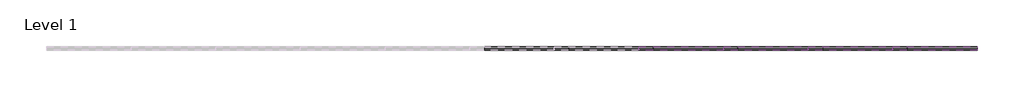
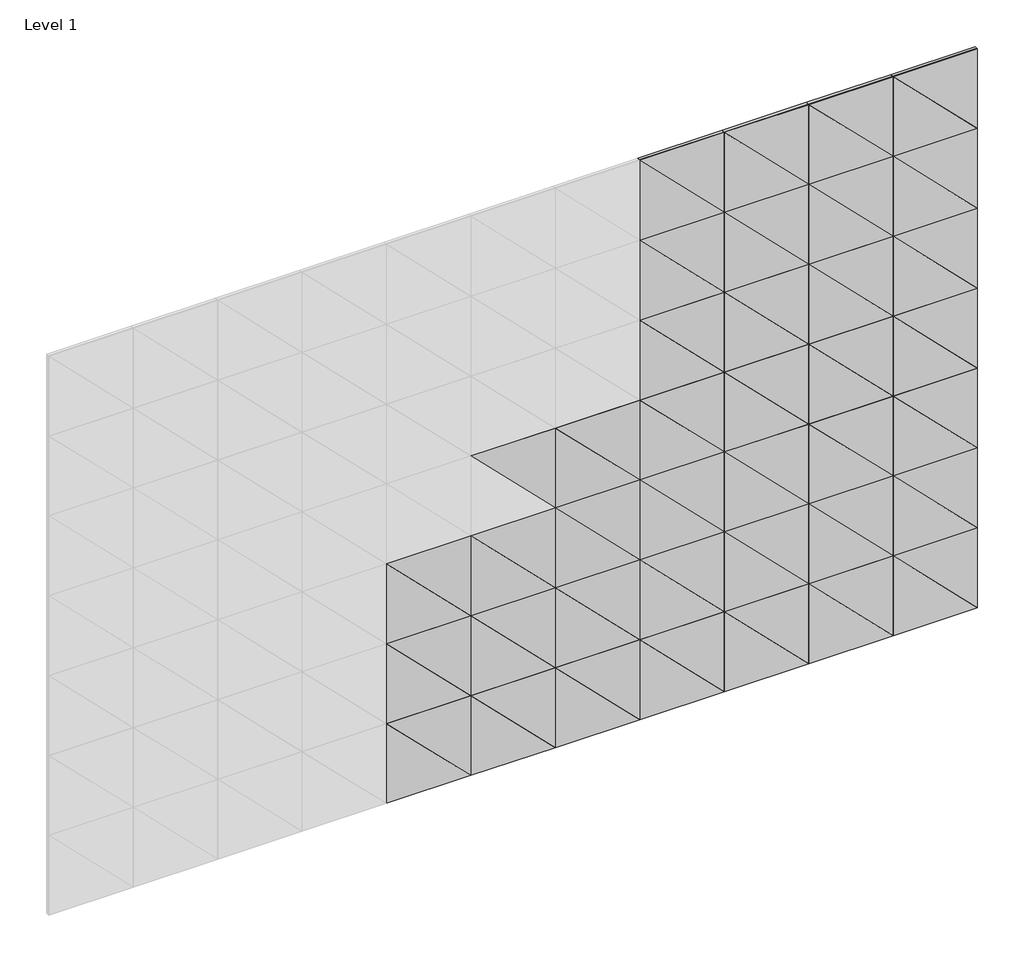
# One storey, part 2 of 2: 77 proxies.
"""IFC4 building model written with IfcOpenShell, lengths in millimetres."""

from ifc_helpers import new_model, si_unit, origin, place, context, project, spatial, transform, mapped, element, save
from components import triangle_90_block_a3482206

model = new_model("IFC4")

# Units and contexts
model_context = context("Model", 3, world=origin())
ifc_project = project(units=[si_unit("LENGTHUNIT", "METRE", prefix="MILLI")], contexts=[model_context])

# Site, building, storey
site = spatial("IfcSite", under=ifc_project)
building = spatial("IfcBuilding", under=site)
storey = spatial("IfcBuildingStorey", under=building, Name="Level 1", Elevation=0.0)

# Proxies
placement = place(None, origin())
triangle_90_block_shape = triangle_90_block_a3482206(model_context)
element("IfcBuildingElementProxy", 1, Name="FilzFelt_Triangle_90_Block : Triangle 90 Block", ObjectType="FilzFelt_Triangle_90_Block : Triangle 90 Block", at=placement, inside=storey, context=model_context, shape_type="MappedRepresentation", body=[
    mapped(triangle_90_block_shape, transform((40163.2097905, -10378.7647205, 2014.1), x_axis=(1.0, 0.0, 0.0), y_axis=(0.0, 0.0, 1.0), z_axis=(0.0, -1.0, 0.0))),
])
element("IfcBuildingElementProxy", 2, Name="FilzFelt_Triangle_90_Block : Triangle 90 Block", ObjectType="FilzFelt_Triangle_90_Block : Triangle 90 Block", at=placement, inside=storey, context=model_context, shape_type="MappedRepresentation", body=[
    mapped(triangle_90_block_shape, transform((40468.2097905, -10378.7647205, 2014.1), x_axis=(1.0, 0.0, 0.0), y_axis=(0.0, 0.0, 1.0), z_axis=(0.0, -1.0, 0.0))),
])
element("IfcBuildingElementProxy", 3, Name="FilzFelt_Triangle_90_Block : Triangle 90 Block", ObjectType="FilzFelt_Triangle_90_Block : Triangle 90 Block", at=placement, inside=storey, context=model_context, shape_type="MappedRepresentation", body=[
    mapped(triangle_90_block_shape, transform((40773.2097905, -10378.7647205, 2014.1), x_axis=(1.0, 0.0, 0.0), y_axis=(0.0, 0.0, 1.0), z_axis=(0.0, -1.0, 0.0))),
])
element("IfcBuildingElementProxy", 4, Name="FilzFelt_Triangle_90_Block : Triangle 90 Block", ObjectType="FilzFelt_Triangle_90_Block : Triangle 90 Block", at=placement, inside=storey, context=model_context, shape_type="MappedRepresentation", body=[
    mapped(triangle_90_block_shape, transform((41078.2097905, -10378.7647205, 2014.1), x_axis=(1.0, 0.0, 0.0), y_axis=(0.0, 0.0, 1.0), z_axis=(0.0, -1.0, 0.0))),
])
element("IfcBuildingElementProxy", 5, Name="FilzFelt_Triangle_90_Block : Triangle 90 Block", ObjectType="FilzFelt_Triangle_90_Block : Triangle 90 Block", at=placement, inside=storey, context=model_context, shape_type="MappedRepresentation", body=[
    mapped(triangle_90_block_shape, transform((40163.2097905, -10378.7647205, 1709.1), x_axis=(1.0, 0.0, 0.0), y_axis=(0.0, 0.0, 1.0), z_axis=(0.0, -1.0, 0.0))),
])
element("IfcBuildingElementProxy", 6, Name="FilzFelt_Triangle_90_Block : Triangle 90 Block", ObjectType="FilzFelt_Triangle_90_Block : Triangle 90 Block", at=placement, inside=storey, context=model_context, shape_type="MappedRepresentation", body=[
    mapped(triangle_90_block_shape, transform((40468.2097905, -10378.7647205, 1709.1), x_axis=(1.0, 0.0, 0.0), y_axis=(0.0, 0.0, 1.0), z_axis=(0.0, -1.0, 0.0))),
])
element("IfcBuildingElementProxy", 7, Name="FilzFelt_Triangle_90_Block : Triangle 90 Block", ObjectType="FilzFelt_Triangle_90_Block : Triangle 90 Block", at=placement, inside=storey, context=model_context, shape_type="MappedRepresentation", body=[
    mapped(triangle_90_block_shape, transform((40773.2097905, -10378.7647205, 1709.1), x_axis=(1.0, 0.0, 0.0), y_axis=(0.0, 0.0, 1.0), z_axis=(0.0, -1.0, 0.0))),
])
element("IfcBuildingElementProxy", 8, Name="FilzFelt_Triangle_90_Block : Triangle 90 Block", ObjectType="FilzFelt_Triangle_90_Block : Triangle 90 Block", at=placement, inside=storey, context=model_context, shape_type="MappedRepresentation", body=[
    mapped(triangle_90_block_shape, transform((41078.2097905, -10378.7647205, 1709.1), x_axis=(1.0, 0.0, 0.0), y_axis=(0.0, 0.0, 1.0), z_axis=(0.0, -1.0, 0.0))),
])
element("IfcBuildingElementProxy", 9, Name="FilzFelt_Triangle_90_Block : Triangle 90 Block", ObjectType="FilzFelt_Triangle_90_Block : Triangle 90 Block", at=placement, inside=storey, context=model_context, shape_type="MappedRepresentation", body=[
    mapped(triangle_90_block_shape, transform((40163.2097905, -10378.7647205, 1404.1), x_axis=(1.0, 0.0, 0.0), y_axis=(0.0, 0.0, 1.0), z_axis=(0.0, -1.0, 0.0))),
])
element("IfcBuildingElementProxy", 10, Name="FilzFelt_Triangle_90_Block : Triangle 90 Block", ObjectType="FilzFelt_Triangle_90_Block : Triangle 90 Block", at=placement, inside=storey, context=model_context, shape_type="MappedRepresentation", body=[
    mapped(triangle_90_block_shape, transform((40468.2097905, -10378.7647205, 1404.1), x_axis=(1.0, 0.0, 0.0), y_axis=(0.0, 0.0, 1.0), z_axis=(0.0, -1.0, 0.0))),
])
element("IfcBuildingElementProxy", 11, Name="FilzFelt_Triangle_90_Block : Triangle 90 Block", ObjectType="FilzFelt_Triangle_90_Block : Triangle 90 Block", at=placement, inside=storey, context=model_context, shape_type="MappedRepresentation", body=[
    mapped(triangle_90_block_shape, transform((40773.2097905, -10378.7647205, 1404.1), x_axis=(1.0, 0.0, 0.0), y_axis=(0.0, 0.0, 1.0), z_axis=(0.0, -1.0, 0.0))),
])
element("IfcBuildingElementProxy", 12, Name="FilzFelt_Triangle_90_Block : Triangle 90 Block", ObjectType="FilzFelt_Triangle_90_Block : Triangle 90 Block", at=placement, inside=storey, context=model_context, shape_type="MappedRepresentation", body=[
    mapped(triangle_90_block_shape, transform((41078.2097905, -10378.7647205, 1404.1), x_axis=(1.0, 0.0, 0.0), y_axis=(0.0, 0.0, 1.0), z_axis=(0.0, -1.0, 0.0))),
])
element("IfcBuildingElementProxy", 13, Name="FilzFelt_Triangle_90_Block : Triangle 90 Block", ObjectType="FilzFelt_Triangle_90_Block : Triangle 90 Block", at=placement, inside=storey, context=model_context, shape_type="MappedRepresentation", body=[
    mapped(triangle_90_block_shape, transform((39858.2097905, -10378.7647205, 1099.1), x_axis=(1.0, 0.0, 0.0), y_axis=(0.0, 0.0, 1.0), z_axis=(0.0, -1.0, 0.0))),
])
element("IfcBuildingElementProxy", 14, Name="FilzFelt_Triangle_90_Block : Triangle 90 Block", ObjectType="FilzFelt_Triangle_90_Block : Triangle 90 Block", at=placement, inside=storey, context=model_context, shape_type="MappedRepresentation", body=[
    mapped(triangle_90_block_shape, transform((40163.2097905, -10378.7647205, 1099.1), x_axis=(1.0, 0.0, 0.0), y_axis=(0.0, 0.0, 1.0), z_axis=(0.0, -1.0, 0.0))),
])
element("IfcBuildingElementProxy", 15, Name="FilzFelt_Triangle_90_Block : Triangle 90 Block", ObjectType="FilzFelt_Triangle_90_Block : Triangle 90 Block", at=placement, inside=storey, context=model_context, shape_type="MappedRepresentation", body=[
    mapped(triangle_90_block_shape, transform((40468.2097905, -10378.7647205, 1099.1), x_axis=(1.0, 0.0, 0.0), y_axis=(0.0, 0.0, 1.0), z_axis=(0.0, -1.0, 0.0))),
])
element("IfcBuildingElementProxy", 16, Name="FilzFelt_Triangle_90_Block : Triangle 90 Block", ObjectType="FilzFelt_Triangle_90_Block : Triangle 90 Block", at=placement, inside=storey, context=model_context, shape_type="MappedRepresentation", body=[
    mapped(triangle_90_block_shape, transform((40773.2097905, -10378.7647205, 1099.1), x_axis=(1.0, 0.0, 0.0), y_axis=(0.0, 0.0, 1.0), z_axis=(0.0, -1.0, 0.0))),
])
element("IfcBuildingElementProxy", 17, Name="FilzFelt_Triangle_90_Block : Triangle 90 Block", ObjectType="FilzFelt_Triangle_90_Block : Triangle 90 Block", at=placement, inside=storey, context=model_context, shape_type="MappedRepresentation", body=[
    mapped(triangle_90_block_shape, transform((41078.2097905, -10378.7647205, 1099.1), x_axis=(1.0, 0.0, 0.0), y_axis=(0.0, 0.0, 1.0), z_axis=(0.0, -1.0, 0.0))),
])
element("IfcBuildingElementProxy", 18, Name="FilzFelt_Triangle_90_Block : Triangle 90 Block", ObjectType="FilzFelt_Triangle_90_Block : Triangle 90 Block", at=placement, inside=storey, context=model_context, shape_type="MappedRepresentation", body=[
    mapped(triangle_90_block_shape, transform((39248.2097905, -10378.7647205, 794.1), x_axis=(1.0, 0.0, 0.0), y_axis=(0.0, 0.0, 1.0), z_axis=(0.0, -1.0, 0.0))),
])
element("IfcBuildingElementProxy", 19, Name="FilzFelt_Triangle_90_Block : Triangle 90 Block", ObjectType="FilzFelt_Triangle_90_Block : Triangle 90 Block", at=placement, inside=storey, context=model_context, shape_type="MappedRepresentation", body=[
    mapped(triangle_90_block_shape, transform((39553.2097905, -10378.7647205, 794.1), x_axis=(1.0, 0.0, 0.0), y_axis=(0.0, 0.0, 1.0), z_axis=(0.0, -1.0, 0.0))),
])
element("IfcBuildingElementProxy", 20, Name="FilzFelt_Triangle_90_Block : Triangle 90 Block", ObjectType="FilzFelt_Triangle_90_Block : Triangle 90 Block", at=placement, inside=storey, context=model_context, shape_type="MappedRepresentation", body=[
    mapped(triangle_90_block_shape, transform((39858.2097905, -10378.7647205, 794.1), x_axis=(1.0, 0.0, 0.0), y_axis=(0.0, 0.0, 1.0), z_axis=(0.0, -1.0, 0.0))),
])
element("IfcBuildingElementProxy", 21, Name="FilzFelt_Triangle_90_Block : Triangle 90 Block", ObjectType="FilzFelt_Triangle_90_Block : Triangle 90 Block", at=placement, inside=storey, context=model_context, shape_type="MappedRepresentation", body=[
    mapped(triangle_90_block_shape, transform((40163.2097905, -10378.7647205, 794.1), x_axis=(1.0, 0.0, 0.0), y_axis=(0.0, 0.0, 1.0), z_axis=(0.0, -1.0, 0.0))),
])
element("IfcBuildingElementProxy", 22, Name="FilzFelt_Triangle_90_Block : Triangle 90 Block", ObjectType="FilzFelt_Triangle_90_Block : Triangle 90 Block", at=placement, inside=storey, context=model_context, shape_type="MappedRepresentation", body=[
    mapped(triangle_90_block_shape, transform((40468.2097905, -10378.7647205, 794.1), x_axis=(1.0, 0.0, 0.0), y_axis=(0.0, 0.0, 1.0), z_axis=(0.0, -1.0, 0.0))),
])
element("IfcBuildingElementProxy", 23, Name="FilzFelt_Triangle_90_Block : Triangle 90 Block", ObjectType="FilzFelt_Triangle_90_Block : Triangle 90 Block", at=placement, inside=storey, context=model_context, shape_type="MappedRepresentation", body=[
    mapped(triangle_90_block_shape, transform((40773.2097905, -10378.7647205, 794.1), x_axis=(1.0, 0.0, 0.0), y_axis=(0.0, 0.0, 1.0), z_axis=(0.0, -1.0, 0.0))),
])
element("IfcBuildingElementProxy", 24, Name="FilzFelt_Triangle_90_Block : Triangle 90 Block", ObjectType="FilzFelt_Triangle_90_Block : Triangle 90 Block", at=placement, inside=storey, context=model_context, shape_type="MappedRepresentation", body=[
    mapped(triangle_90_block_shape, transform((41078.2097905, -10378.7647205, 794.1), x_axis=(1.0, 0.0, 0.0), y_axis=(0.0, 0.0, 1.0), z_axis=(0.0, -1.0, 0.0))),
])
element("IfcBuildingElementProxy", 25, Name="FilzFelt_Triangle_90_Block : Triangle 90 Block", ObjectType="FilzFelt_Triangle_90_Block : Triangle 90 Block", at=placement, inside=storey, context=model_context, shape_type="MappedRepresentation", body=[
    mapped(triangle_90_block_shape, transform((39248.2097905, -10378.7647205, 489.1), x_axis=(1.0, 0.0, 0.0), y_axis=(0.0, 0.0, 1.0), z_axis=(0.0, -1.0, 0.0))),
])
element("IfcBuildingElementProxy", 26, Name="FilzFelt_Triangle_90_Block : Triangle 90 Block", ObjectType="FilzFelt_Triangle_90_Block : Triangle 90 Block", at=placement, inside=storey, context=model_context, shape_type="MappedRepresentation", body=[
    mapped(triangle_90_block_shape, transform((39553.2097905, -10378.7647205, 489.1), x_axis=(1.0, 0.0, 0.0), y_axis=(0.0, 0.0, 1.0), z_axis=(0.0, -1.0, 0.0))),
])
element("IfcBuildingElementProxy", 27, Name="FilzFelt_Triangle_90_Block : Triangle 90 Block", ObjectType="FilzFelt_Triangle_90_Block : Triangle 90 Block", at=placement, inside=storey, context=model_context, shape_type="MappedRepresentation", body=[
    mapped(triangle_90_block_shape, transform((39858.2097905, -10378.7647205, 489.1), x_axis=(1.0, 0.0, 0.0), y_axis=(0.0, 0.0, 1.0), z_axis=(0.0, -1.0, 0.0))),
])
element("IfcBuildingElementProxy", 28, Name="FilzFelt_Triangle_90_Block : Triangle 90 Block", ObjectType="FilzFelt_Triangle_90_Block : Triangle 90 Block", at=placement, inside=storey, context=model_context, shape_type="MappedRepresentation", body=[
    mapped(triangle_90_block_shape, transform((40163.2097905, -10378.7647205, 489.1), x_axis=(1.0, 0.0, 0.0), y_axis=(0.0, 0.0, 1.0), z_axis=(0.0, -1.0, 0.0))),
])
element("IfcBuildingElementProxy", 29, Name="FilzFelt_Triangle_90_Block : Triangle 90 Block", ObjectType="FilzFelt_Triangle_90_Block : Triangle 90 Block", at=placement, inside=storey, context=model_context, shape_type="MappedRepresentation", body=[
    mapped(triangle_90_block_shape, transform((40468.2097905, -10378.7647205, 489.1), x_axis=(1.0, 0.0, 0.0), y_axis=(0.0, 0.0, 1.0), z_axis=(0.0, -1.0, 0.0))),
])
element("IfcBuildingElementProxy", 30, Name="FilzFelt_Triangle_90_Block : Triangle 90 Block", ObjectType="FilzFelt_Triangle_90_Block : Triangle 90 Block", at=placement, inside=storey, context=model_context, shape_type="MappedRepresentation", body=[
    mapped(triangle_90_block_shape, transform((40773.2097905, -10378.7647205, 489.1), x_axis=(1.0, 0.0, 0.0), y_axis=(0.0, 0.0, 1.0), z_axis=(0.0, -1.0, 0.0))),
])
element("IfcBuildingElementProxy", 31, Name="FilzFelt_Triangle_90_Block : Triangle 90 Block", ObjectType="FilzFelt_Triangle_90_Block : Triangle 90 Block", at=placement, inside=storey, context=model_context, shape_type="MappedRepresentation", body=[
    mapped(triangle_90_block_shape, transform((41078.2097905, -10378.7647205, 489.1), x_axis=(1.0, 0.0, 0.0), y_axis=(0.0, 0.0, 1.0), z_axis=(0.0, -1.0, 0.0))),
])
element("IfcBuildingElementProxy", 32, Name="FilzFelt_Triangle_90_Block : Triangle 90 Block", ObjectType="FilzFelt_Triangle_90_Block : Triangle 90 Block", at=placement, inside=storey, context=model_context, shape_type="MappedRepresentation", body=[
    mapped(triangle_90_block_shape, transform((39248.2097905, -10378.7647205, 184.1), x_axis=(1.0, 0.0, 0.0), y_axis=(0.0, 0.0, 1.0), z_axis=(0.0, -1.0, 0.0))),
])
element("IfcBuildingElementProxy", 33, Name="FilzFelt_Triangle_90_Block : Triangle 90 Block", ObjectType="FilzFelt_Triangle_90_Block : Triangle 90 Block", at=placement, inside=storey, context=model_context, shape_type="MappedRepresentation", body=[
    mapped(triangle_90_block_shape, transform((39553.2097905, -10378.7647205, 184.1), x_axis=(1.0, 0.0, 0.0), y_axis=(0.0, 0.0, 1.0), z_axis=(0.0, -1.0, 0.0))),
])
element("IfcBuildingElementProxy", 34, Name="FilzFelt_Triangle_90_Block : Triangle 90 Block", ObjectType="FilzFelt_Triangle_90_Block : Triangle 90 Block", at=placement, inside=storey, context=model_context, shape_type="MappedRepresentation", body=[
    mapped(triangle_90_block_shape, transform((39858.2097905, -10378.7647205, 184.1), x_axis=(1.0, 0.0, 0.0), y_axis=(0.0, 0.0, 1.0), z_axis=(0.0, -1.0, 0.0))),
])
element("IfcBuildingElementProxy", 35, Name="FilzFelt_Triangle_90_Block : Triangle 90 Block", ObjectType="FilzFelt_Triangle_90_Block : Triangle 90 Block", at=placement, inside=storey, context=model_context, shape_type="MappedRepresentation", body=[
    mapped(triangle_90_block_shape, transform((40163.2097905, -10378.7647205, 184.1), x_axis=(1.0, 0.0, 0.0), y_axis=(0.0, 0.0, 1.0), z_axis=(0.0, -1.0, 0.0))),
])
element("IfcBuildingElementProxy", 36, Name="FilzFelt_Triangle_90_Block : Triangle 90 Block", ObjectType="FilzFelt_Triangle_90_Block : Triangle 90 Block", at=placement, inside=storey, context=model_context, shape_type="MappedRepresentation", body=[
    mapped(triangle_90_block_shape, transform((40468.2097905, -10378.7647205, 184.1), x_axis=(1.0, 0.0, 0.0), y_axis=(0.0, 0.0, 1.0), z_axis=(0.0, -1.0, 0.0))),
])
element("IfcBuildingElementProxy", 37, Name="FilzFelt_Triangle_90_Block : Triangle 90 Block", ObjectType="FilzFelt_Triangle_90_Block : Triangle 90 Block", at=placement, inside=storey, context=model_context, shape_type="MappedRepresentation", body=[
    mapped(triangle_90_block_shape, transform((40773.2097905, -10378.7647205, 184.1), x_axis=(1.0, 0.0, 0.0), y_axis=(0.0, 0.0, 1.0), z_axis=(0.0, -1.0, 0.0))),
])
element("IfcBuildingElementProxy", 38, Name="FilzFelt_Triangle_90_Block : Triangle 90 Block", ObjectType="FilzFelt_Triangle_90_Block : Triangle 90 Block", at=placement, inside=storey, context=model_context, shape_type="MappedRepresentation", body=[
    mapped(triangle_90_block_shape, transform((41078.2097905, -10378.7647205, 184.1), x_axis=(1.0, 0.0, 0.0), y_axis=(0.0, 0.0, 1.0), z_axis=(0.0, -1.0, 0.0))),
])
element("IfcBuildingElementProxy", 39, Name="FilzFelt_Triangle_90_Block : Triangle 90 Block", ObjectType="FilzFelt_Triangle_90_Block : Triangle 90 Block", at=placement, inside=storey, context=model_context, shape_type="MappedRepresentation", body=[
    mapped(triangle_90_block_shape, transform((40163.2097905, -10378.7647205, 2014.1), x_axis=(-1.0, 0.0, 0.0), y_axis=(0.0, 0.0, -1.0), z_axis=(0.0, -1.0, 0.0))),
])
element("IfcBuildingElementProxy", 40, Name="FilzFelt_Triangle_90_Block : Triangle 90 Block", ObjectType="FilzFelt_Triangle_90_Block : Triangle 90 Block", at=placement, inside=storey, context=model_context, shape_type="MappedRepresentation", body=[
    mapped(triangle_90_block_shape, transform((40468.2097905, -10378.7647205, 2014.1), x_axis=(-1.0, 0.0, 0.0), y_axis=(0.0, 0.0, -1.0), z_axis=(0.0, -1.0, 0.0))),
])
element("IfcBuildingElementProxy", 41, Name="FilzFelt_Triangle_90_Block : Triangle 90 Block", ObjectType="FilzFelt_Triangle_90_Block : Triangle 90 Block", at=placement, inside=storey, context=model_context, shape_type="MappedRepresentation", body=[
    mapped(triangle_90_block_shape, transform((40773.2097905, -10378.7647205, 2014.1), x_axis=(-1.0, 0.0, 0.0), y_axis=(0.0, 0.0, -1.0), z_axis=(0.0, -1.0, 0.0))),
])
element("IfcBuildingElementProxy", 42, Name="FilzFelt_Triangle_90_Block : Triangle 90 Block", ObjectType="FilzFelt_Triangle_90_Block : Triangle 90 Block", at=placement, inside=storey, context=model_context, shape_type="MappedRepresentation", body=[
    mapped(triangle_90_block_shape, transform((41078.2097905, -10378.7647205, 2014.1), x_axis=(-1.0, 0.0, 0.0), y_axis=(0.0, 0.0, -1.0), z_axis=(0.0, -1.0, 0.0))),
])
element("IfcBuildingElementProxy", 43, Name="FilzFelt_Triangle_90_Block : Triangle 90 Block", ObjectType="FilzFelt_Triangle_90_Block : Triangle 90 Block", at=placement, inside=storey, context=model_context, shape_type="MappedRepresentation", body=[
    mapped(triangle_90_block_shape, transform((40163.2097905, -10378.7647205, 1404.1), x_axis=(-1.0, 0.0, 0.0), y_axis=(0.0, 0.0, -1.0), z_axis=(0.0, -1.0, 0.0))),
])
element("IfcBuildingElementProxy", 44, Name="FilzFelt_Triangle_90_Block : Triangle 90 Block", ObjectType="FilzFelt_Triangle_90_Block : Triangle 90 Block", at=placement, inside=storey, context=model_context, shape_type="MappedRepresentation", body=[
    mapped(triangle_90_block_shape, transform((40468.2097905, -10378.7647205, 1404.1), x_axis=(-1.0, 0.0, 0.0), y_axis=(0.0, 0.0, -1.0), z_axis=(0.0, -1.0, 0.0))),
])
element("IfcBuildingElementProxy", 45, Name="FilzFelt_Triangle_90_Block : Triangle 90 Block", ObjectType="FilzFelt_Triangle_90_Block : Triangle 90 Block", at=placement, inside=storey, context=model_context, shape_type="MappedRepresentation", body=[
    mapped(triangle_90_block_shape, transform((40773.2097905, -10378.7647205, 1404.1), x_axis=(-1.0, 0.0, 0.0), y_axis=(0.0, 0.0, -1.0), z_axis=(0.0, -1.0, 0.0))),
])
element("IfcBuildingElementProxy", 46, Name="FilzFelt_Triangle_90_Block : Triangle 90 Block", ObjectType="FilzFelt_Triangle_90_Block : Triangle 90 Block", at=placement, inside=storey, context=model_context, shape_type="MappedRepresentation", body=[
    mapped(triangle_90_block_shape, transform((41078.2097905, -10378.7647205, 1404.1), x_axis=(-1.0, 0.0, 0.0), y_axis=(0.0, 0.0, -1.0), z_axis=(0.0, -1.0, 0.0))),
])
element("IfcBuildingElementProxy", 47, Name="FilzFelt_Triangle_90_Block : Triangle 90 Block", ObjectType="FilzFelt_Triangle_90_Block : Triangle 90 Block", at=placement, inside=storey, context=model_context, shape_type="MappedRepresentation", body=[
    mapped(triangle_90_block_shape, transform((39248.2097905, -10378.7647205, 794.1), x_axis=(-1.0, 0.0, 0.0), y_axis=(0.0, 0.0, -1.0), z_axis=(0.0, -1.0, 0.0))),
])
element("IfcBuildingElementProxy", 48, Name="FilzFelt_Triangle_90_Block : Triangle 90 Block", ObjectType="FilzFelt_Triangle_90_Block : Triangle 90 Block", at=placement, inside=storey, context=model_context, shape_type="MappedRepresentation", body=[
    mapped(triangle_90_block_shape, transform((39553.2097905, -10378.7647205, 794.1), x_axis=(-1.0, 0.0, 0.0), y_axis=(0.0, 0.0, -1.0), z_axis=(0.0, -1.0, 0.0))),
])
element("IfcBuildingElementProxy", 49, Name="FilzFelt_Triangle_90_Block : Triangle 90 Block", ObjectType="FilzFelt_Triangle_90_Block : Triangle 90 Block", at=placement, inside=storey, context=model_context, shape_type="MappedRepresentation", body=[
    mapped(triangle_90_block_shape, transform((39858.2097905, -10378.7647205, 794.1), x_axis=(-1.0, 0.0, 0.0), y_axis=(0.0, 0.0, -1.0), z_axis=(0.0, -1.0, 0.0))),
])
element("IfcBuildingElementProxy", 50, Name="FilzFelt_Triangle_90_Block : Triangle 90 Block", ObjectType="FilzFelt_Triangle_90_Block : Triangle 90 Block", at=placement, inside=storey, context=model_context, shape_type="MappedRepresentation", body=[
    mapped(triangle_90_block_shape, transform((40163.2097905, -10378.7647205, 794.1), x_axis=(-1.0, 0.0, 0.0), y_axis=(0.0, 0.0, -1.0), z_axis=(0.0, -1.0, 0.0))),
])
element("IfcBuildingElementProxy", 51, Name="FilzFelt_Triangle_90_Block : Triangle 90 Block", ObjectType="FilzFelt_Triangle_90_Block : Triangle 90 Block", at=placement, inside=storey, context=model_context, shape_type="MappedRepresentation", body=[
    mapped(triangle_90_block_shape, transform((40468.2097905, -10378.7647205, 794.1), x_axis=(-1.0, 0.0, 0.0), y_axis=(0.0, 0.0, -1.0), z_axis=(0.0, -1.0, 0.0))),
])
element("IfcBuildingElementProxy", 52, Name="FilzFelt_Triangle_90_Block : Triangle 90 Block", ObjectType="FilzFelt_Triangle_90_Block : Triangle 90 Block", at=placement, inside=storey, context=model_context, shape_type="MappedRepresentation", body=[
    mapped(triangle_90_block_shape, transform((40773.2097905, -10378.7647205, 794.1), x_axis=(-1.0, 0.0, 0.0), y_axis=(0.0, 0.0, -1.0), z_axis=(0.0, -1.0, 0.0))),
])
element("IfcBuildingElementProxy", 53, Name="FilzFelt_Triangle_90_Block : Triangle 90 Block", ObjectType="FilzFelt_Triangle_90_Block : Triangle 90 Block", at=placement, inside=storey, context=model_context, shape_type="MappedRepresentation", body=[
    mapped(triangle_90_block_shape, transform((41078.2097905, -10378.7647205, 794.1), x_axis=(-1.0, 0.0, 0.0), y_axis=(0.0, 0.0, -1.0), z_axis=(0.0, -1.0, 0.0))),
])
element("IfcBuildingElementProxy", 54, Name="FilzFelt_Triangle_90_Block : Triangle 90 Block", ObjectType="FilzFelt_Triangle_90_Block : Triangle 90 Block", at=placement, inside=storey, context=model_context, shape_type="MappedRepresentation", body=[
    mapped(triangle_90_block_shape, transform((39248.2097905, -10378.7647205, 184.1), x_axis=(-1.0, 0.0, 0.0), y_axis=(0.0, 0.0, -1.0), z_axis=(0.0, -1.0, 0.0))),
])
element("IfcBuildingElementProxy", 55, Name="FilzFelt_Triangle_90_Block : Triangle 90 Block", ObjectType="FilzFelt_Triangle_90_Block : Triangle 90 Block", at=placement, inside=storey, context=model_context, shape_type="MappedRepresentation", body=[
    mapped(triangle_90_block_shape, transform((39553.2097905, -10378.7647205, 184.1), x_axis=(-1.0, 0.0, 0.0), y_axis=(0.0, 0.0, -1.0), z_axis=(0.0, -1.0, 0.0))),
])
element("IfcBuildingElementProxy", 56, Name="FilzFelt_Triangle_90_Block : Triangle 90 Block", ObjectType="FilzFelt_Triangle_90_Block : Triangle 90 Block", at=placement, inside=storey, context=model_context, shape_type="MappedRepresentation", body=[
    mapped(triangle_90_block_shape, transform((39858.2097905, -10378.7647205, 184.1), x_axis=(-1.0, 0.0, 0.0), y_axis=(0.0, 0.0, -1.0), z_axis=(0.0, -1.0, 0.0))),
])
element("IfcBuildingElementProxy", 57, Name="FilzFelt_Triangle_90_Block : Triangle 90 Block", ObjectType="FilzFelt_Triangle_90_Block : Triangle 90 Block", at=placement, inside=storey, context=model_context, shape_type="MappedRepresentation", body=[
    mapped(triangle_90_block_shape, transform((40163.2097905, -10378.7647205, 184.1), x_axis=(-1.0, 0.0, 0.0), y_axis=(0.0, 0.0, -1.0), z_axis=(0.0, -1.0, 0.0))),
])
element("IfcBuildingElementProxy", 58, Name="FilzFelt_Triangle_90_Block : Triangle 90 Block", ObjectType="FilzFelt_Triangle_90_Block : Triangle 90 Block", at=placement, inside=storey, context=model_context, shape_type="MappedRepresentation", body=[
    mapped(triangle_90_block_shape, transform((40468.2097905, -10378.7647205, 184.1), x_axis=(-1.0, 0.0, 0.0), y_axis=(0.0, 0.0, -1.0), z_axis=(0.0, -1.0, 0.0))),
])
element("IfcBuildingElementProxy", 59, Name="FilzFelt_Triangle_90_Block : Triangle 90 Block", ObjectType="FilzFelt_Triangle_90_Block : Triangle 90 Block", at=placement, inside=storey, context=model_context, shape_type="MappedRepresentation", body=[
    mapped(triangle_90_block_shape, transform((40773.2097905, -10378.7647205, 184.1), x_axis=(-1.0, 0.0, 0.0), y_axis=(0.0, 0.0, -1.0), z_axis=(0.0, -1.0, 0.0))),
])
element("IfcBuildingElementProxy", 60, Name="FilzFelt_Triangle_90_Block : Triangle 90 Block", ObjectType="FilzFelt_Triangle_90_Block : Triangle 90 Block", at=placement, inside=storey, context=model_context, shape_type="MappedRepresentation", body=[
    mapped(triangle_90_block_shape, transform((41078.2097905, -10378.7647205, 184.1), x_axis=(-1.0, 0.0, 0.0), y_axis=(0.0, 0.0, -1.0), z_axis=(0.0, -1.0, 0.0))),
])
element("IfcBuildingElementProxy", 61, Name="FilzFelt_Triangle_90_Block : Triangle 90 Block", ObjectType="FilzFelt_Triangle_90_Block : Triangle 90 Block", at=placement, inside=storey, context=model_context, shape_type="MappedRepresentation", body=[
    mapped(triangle_90_block_shape, transform((40163.2097905, -10378.7647205, 1709.1), x_axis=(-1.0, 0.0, 0.0), y_axis=(0.0, 0.0, -1.0), z_axis=(0.0, -1.0, 0.0))),
])
element("IfcBuildingElementProxy", 62, Name="FilzFelt_Triangle_90_Block : Triangle 90 Block", ObjectType="FilzFelt_Triangle_90_Block : Triangle 90 Block", at=placement, inside=storey, context=model_context, shape_type="MappedRepresentation", body=[
    mapped(triangle_90_block_shape, transform((40468.2097905, -10378.7647205, 1709.1), x_axis=(-1.0, 0.0, 0.0), y_axis=(0.0, 0.0, -1.0), z_axis=(0.0, -1.0, 0.0))),
])
element("IfcBuildingElementProxy", 63, Name="FilzFelt_Triangle_90_Block : Triangle 90 Block", ObjectType="FilzFelt_Triangle_90_Block : Triangle 90 Block", at=placement, inside=storey, context=model_context, shape_type="MappedRepresentation", body=[
    mapped(triangle_90_block_shape, transform((40773.2097905, -10378.7647205, 1709.1), x_axis=(-1.0, 0.0, 0.0), y_axis=(0.0, 0.0, -1.0), z_axis=(0.0, -1.0, 0.0))),
])
element("IfcBuildingElementProxy", 64, Name="FilzFelt_Triangle_90_Block : Triangle 90 Block", ObjectType="FilzFelt_Triangle_90_Block : Triangle 90 Block", at=placement, inside=storey, context=model_context, shape_type="MappedRepresentation", body=[
    mapped(triangle_90_block_shape, transform((41078.2097905, -10378.7647205, 1709.1), x_axis=(-1.0, 0.0, 0.0), y_axis=(0.0, 0.0, -1.0), z_axis=(0.0, -1.0, 0.0))),
])
element("IfcBuildingElementProxy", 65, Name="FilzFelt_Triangle_90_Block : Triangle 90 Block", ObjectType="FilzFelt_Triangle_90_Block : Triangle 90 Block", at=placement, inside=storey, context=model_context, shape_type="MappedRepresentation", body=[
    mapped(triangle_90_block_shape, transform((39553.2097905, -10378.7647205, 1099.1), x_axis=(-1.0, 0.0, 0.0), y_axis=(0.0, 0.0, -1.0), z_axis=(0.0, -1.0, 0.0))),
])
element("IfcBuildingElementProxy", 66, Name="FilzFelt_Triangle_90_Block : Triangle 90 Block", ObjectType="FilzFelt_Triangle_90_Block : Triangle 90 Block", at=placement, inside=storey, context=model_context, shape_type="MappedRepresentation", body=[
    mapped(triangle_90_block_shape, transform((39858.2097905, -10378.7647205, 1099.1), x_axis=(-1.0, 0.0, 0.0), y_axis=(0.0, 0.0, -1.0), z_axis=(0.0, -1.0, 0.0))),
])
element("IfcBuildingElementProxy", 67, Name="FilzFelt_Triangle_90_Block : Triangle 90 Block", ObjectType="FilzFelt_Triangle_90_Block : Triangle 90 Block", at=placement, inside=storey, context=model_context, shape_type="MappedRepresentation", body=[
    mapped(triangle_90_block_shape, transform((40163.2097905, -10378.7647205, 1099.1), x_axis=(-1.0, 0.0, 0.0), y_axis=(0.0, 0.0, -1.0), z_axis=(0.0, -1.0, 0.0))),
])
element("IfcBuildingElementProxy", 68, Name="FilzFelt_Triangle_90_Block : Triangle 90 Block", ObjectType="FilzFelt_Triangle_90_Block : Triangle 90 Block", at=placement, inside=storey, context=model_context, shape_type="MappedRepresentation", body=[
    mapped(triangle_90_block_shape, transform((40468.2097905, -10378.7647205, 1099.1), x_axis=(-1.0, 0.0, 0.0), y_axis=(0.0, 0.0, -1.0), z_axis=(0.0, -1.0, 0.0))),
])
element("IfcBuildingElementProxy", 69, Name="FilzFelt_Triangle_90_Block : Triangle 90 Block", ObjectType="FilzFelt_Triangle_90_Block : Triangle 90 Block", at=placement, inside=storey, context=model_context, shape_type="MappedRepresentation", body=[
    mapped(triangle_90_block_shape, transform((40773.2097905, -10378.7647205, 1099.1), x_axis=(-1.0, 0.0, 0.0), y_axis=(0.0, 0.0, -1.0), z_axis=(0.0, -1.0, 0.0))),
])
element("IfcBuildingElementProxy", 70, Name="FilzFelt_Triangle_90_Block : Triangle 90 Block", ObjectType="FilzFelt_Triangle_90_Block : Triangle 90 Block", at=placement, inside=storey, context=model_context, shape_type="MappedRepresentation", body=[
    mapped(triangle_90_block_shape, transform((41078.2097905, -10378.7647205, 1099.1), x_axis=(-1.0, 0.0, 0.0), y_axis=(0.0, 0.0, -1.0), z_axis=(0.0, -1.0, 0.0))),
])
element("IfcBuildingElementProxy", 71, Name="FilzFelt_Triangle_90_Block : Triangle 90 Block", ObjectType="FilzFelt_Triangle_90_Block : Triangle 90 Block", at=placement, inside=storey, context=model_context, shape_type="MappedRepresentation", body=[
    mapped(triangle_90_block_shape, transform((39248.2097905, -10378.7647205, 489.1), x_axis=(-1.0, 0.0, 0.0), y_axis=(0.0, 0.0, -1.0), z_axis=(0.0, -1.0, 0.0))),
])
element("IfcBuildingElementProxy", 72, Name="FilzFelt_Triangle_90_Block : Triangle 90 Block", ObjectType="FilzFelt_Triangle_90_Block : Triangle 90 Block", at=placement, inside=storey, context=model_context, shape_type="MappedRepresentation", body=[
    mapped(triangle_90_block_shape, transform((39553.2097905, -10378.7647205, 489.1), x_axis=(-1.0, 0.0, 0.0), y_axis=(0.0, 0.0, -1.0), z_axis=(0.0, -1.0, 0.0))),
])
element("IfcBuildingElementProxy", 73, Name="FilzFelt_Triangle_90_Block : Triangle 90 Block", ObjectType="FilzFelt_Triangle_90_Block : Triangle 90 Block", at=placement, inside=storey, context=model_context, shape_type="MappedRepresentation", body=[
    mapped(triangle_90_block_shape, transform((39858.2097905, -10378.7647205, 489.1), x_axis=(-1.0, 0.0, 0.0), y_axis=(0.0, 0.0, -1.0), z_axis=(0.0, -1.0, 0.0))),
])
element("IfcBuildingElementProxy", 74, Name="FilzFelt_Triangle_90_Block : Triangle 90 Block", ObjectType="FilzFelt_Triangle_90_Block : Triangle 90 Block", at=placement, inside=storey, context=model_context, shape_type="MappedRepresentation", body=[
    mapped(triangle_90_block_shape, transform((40163.2097905, -10378.7647205, 489.1), x_axis=(-1.0, 0.0, 0.0), y_axis=(0.0, 0.0, -1.0), z_axis=(0.0, -1.0, 0.0))),
])
element("IfcBuildingElementProxy", 75, Name="FilzFelt_Triangle_90_Block : Triangle 90 Block", ObjectType="FilzFelt_Triangle_90_Block : Triangle 90 Block", at=placement, inside=storey, context=model_context, shape_type="MappedRepresentation", body=[
    mapped(triangle_90_block_shape, transform((40468.2097905, -10378.7647205, 489.1), x_axis=(-1.0, 0.0, 0.0), y_axis=(0.0, 0.0, -1.0), z_axis=(0.0, -1.0, 0.0))),
])
element("IfcBuildingElementProxy", 76, Name="FilzFelt_Triangle_90_Block : Triangle 90 Block", ObjectType="FilzFelt_Triangle_90_Block : Triangle 90 Block", at=placement, inside=storey, context=model_context, shape_type="MappedRepresentation", body=[
    mapped(triangle_90_block_shape, transform((40773.2097905, -10378.7647205, 489.1), x_axis=(-1.0, 0.0, 0.0), y_axis=(0.0, 0.0, -1.0), z_axis=(0.0, -1.0, 0.0))),
])
element("IfcBuildingElementProxy", 77, Name="FilzFelt_Triangle_90_Block : Triangle 90 Block", ObjectType="FilzFelt_Triangle_90_Block : Triangle 90 Block", at=placement, inside=storey, context=model_context, shape_type="MappedRepresentation", body=[
    mapped(triangle_90_block_shape, transform((41078.2097905, -10378.7647205, 489.1), x_axis=(-1.0, 0.0, 0.0), y_axis=(0.0, 0.0, -1.0), z_axis=(0.0, -1.0, 0.0))),
])

save(model, "model.ifc")
